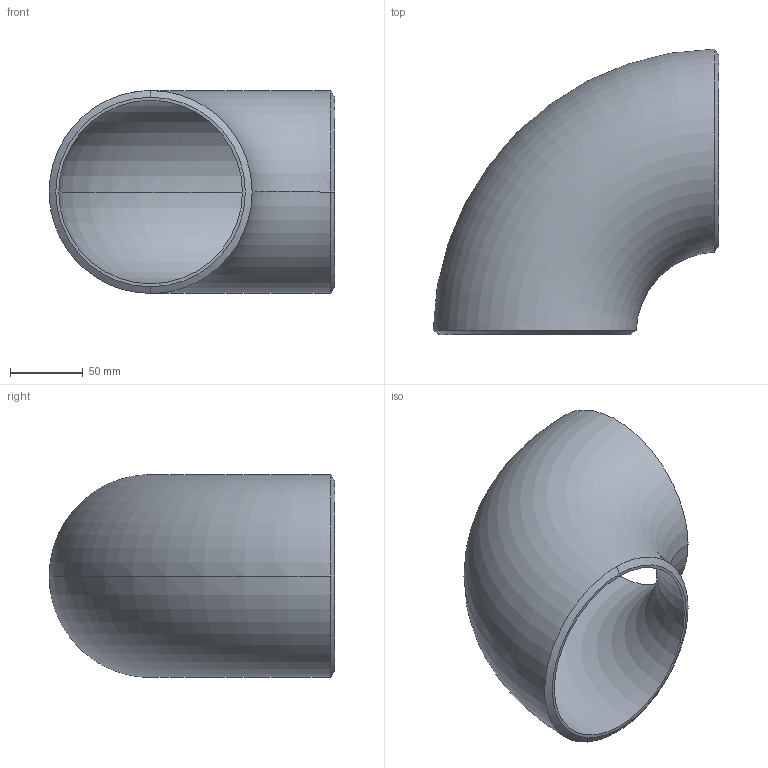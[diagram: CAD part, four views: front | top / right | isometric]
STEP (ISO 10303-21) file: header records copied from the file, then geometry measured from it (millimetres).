
FILE_DESCRIPTION (( 'STEP AP214' ), '1' );
FILE_NAME ('Elbow-short-90deg_Sch40-125A.STEP', '2021-08-25T01:37:02', ( 'ASIS User' ), ( 'ASIS User' ), 'SwSTEP 2.0', 'SolidWorks 2021', '' );
FILE_SCHEMA (( 'AUTOMOTIVE_DESIGN' ));
Length unit declared in the file: millimetre
Products named in the file (1): Elbow-short-90deg_Sch40-125A
Bounding box: 196.88 x 196.88 x 139.8 mm (x, y, z)
Volume: 545113.8 mm3; surface area: 170638 mm2
Topology: 1 solids, 1 shells, 10 faces, 22 edges, 14 vertices
Faces by surface type: torus 4, cone 4, plane 2
Entity records: 587 total; most frequent: CARTESIAN_POINT 326, DIRECTION 50, ORIENTED_EDGE 44, AXIS2_PLACEMENT_3D 23, EDGE_CURVE 22, VERTEX_POINT 14, CIRCLE 12, EDGE_LOOP 12
